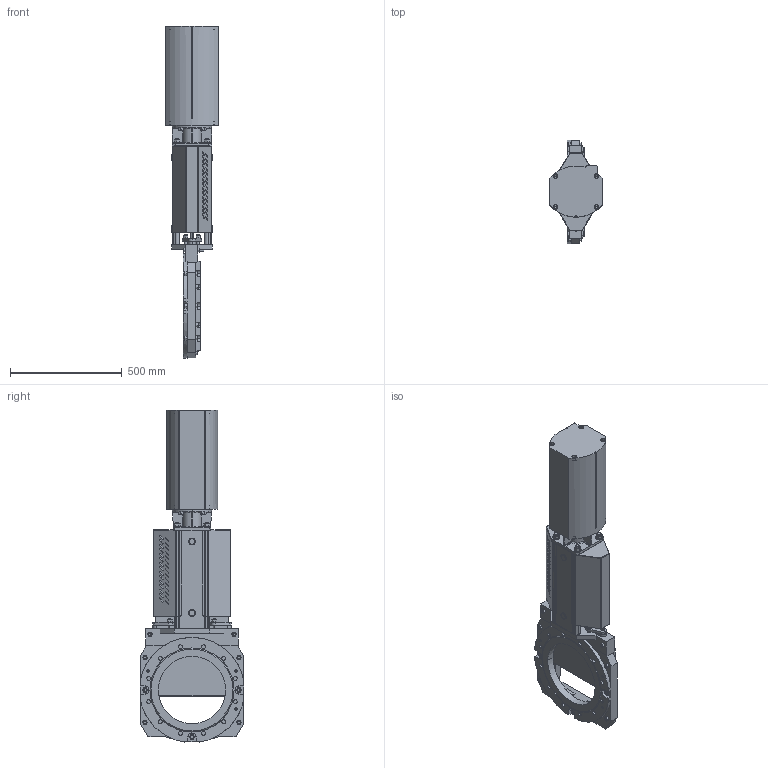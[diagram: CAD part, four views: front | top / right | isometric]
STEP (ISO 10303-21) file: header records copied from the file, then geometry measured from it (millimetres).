
FILE_DESCRIPTION(('STEP AP203'),'1');
FILE_NAME('F:/Alexander/tillfällig/RKO-DN300-EC200.stp','2013-04-09T09:12:23',(' '),(' '),'Spatial InterOp 3D',' ',' ');
FILE_SCHEMA(('CONFIG_CONTROL_DESIGN'));
Length unit declared in the file: millimetre
Products named in the file (3): 1; 2; 3
Bounding box: 236 x 464.76 x 1484.38 mm (x, y, z)
Volume: 34397228.3 mm3; surface area: 2977135.8 mm2
Topology: 3 solids, 36 shells, 2327 faces, 5857 edges, 3764 vertices
Faces by surface type: plane 1025, cylinder 794, cone 458, torus 50
Entity records: 71213 total; most frequent: CARTESIAN_POINT 15039, DIRECTION 12021, ORIENTED_EDGE 11666, EDGE_CURVE 5833, AXIS2_PLACEMENT_3D 4548, VERTEX_POINT 3764, LINE 2925, VECTOR 2925
